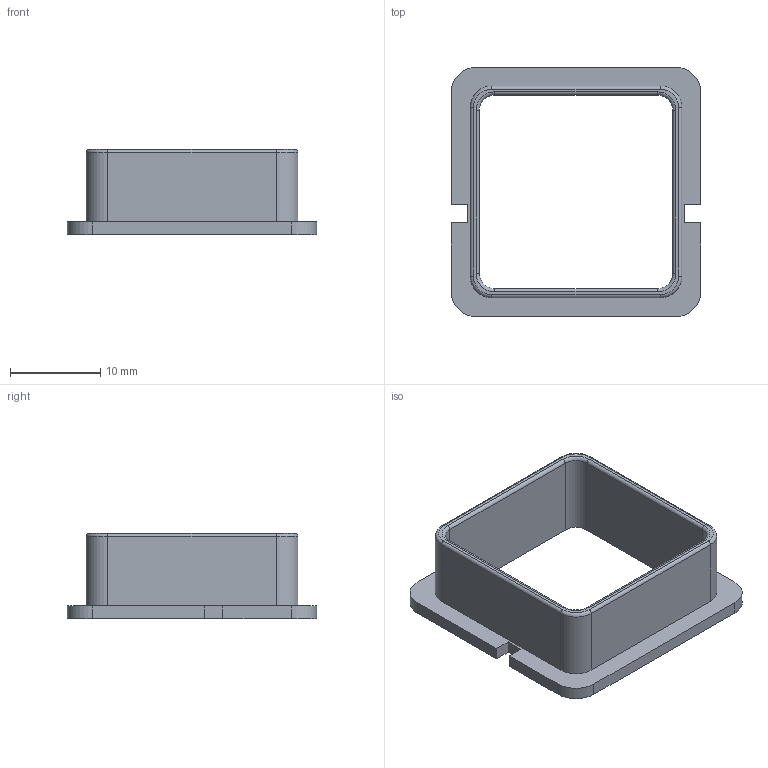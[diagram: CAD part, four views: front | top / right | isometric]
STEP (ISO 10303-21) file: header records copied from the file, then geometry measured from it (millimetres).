
FILE_DESCRIPTION(('Open CASCADE Model'),'2;1');
FILE_NAME('Open CASCADE Shape Model','2026-10-07T16:08:43',('Author'),( 'Open CASCADE'),'Open CASCADE STEP processor 7.9','Open CASCADE 7.9' ,'Unknown');
FILE_SCHEMA(('AUTOMOTIVE_DESIGN { 1 0 10303 214 1 1 1 1 }'));
Length unit declared in the file: millimetre
Products named in the file (1): Open CASCADE STEP translator 7.9 4
Bounding box: 27.6 x 27.6 x 9.4 mm (x, y, z)
Volume: 1101.9 mm3; surface area: 2209.8 mm2
Topology: 1 solids, 1 shells, 51 faces, 128 edges, 80 vertices
Faces by surface type: plane 23, cylinder 20, torus 8
Entity records: 3170 total; most frequent: CARTESIAN_POINT 654, DIRECTION 458, ORIENTED_EDGE 256, PCURVE 256, DEFINITIONAL_REPRESENTATION 256, LINE 246, VECTOR 246, EDGE_CURVE 128
